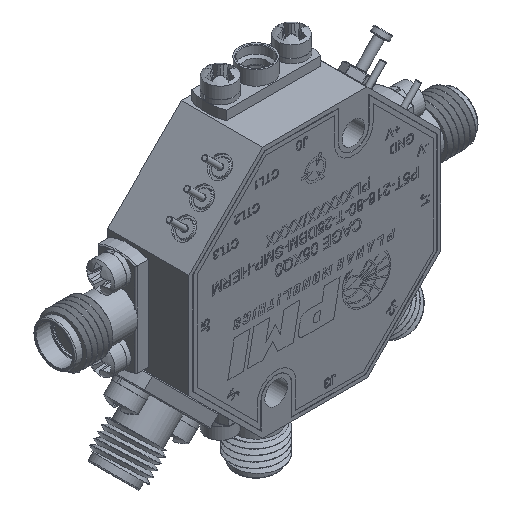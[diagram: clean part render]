
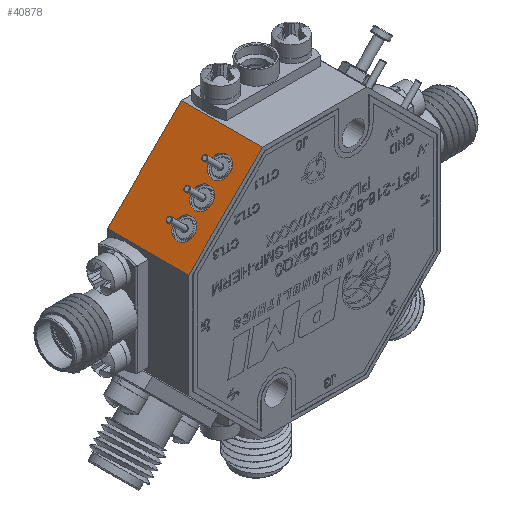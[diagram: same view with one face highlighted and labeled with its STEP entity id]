
A CAD part, isometric view. The second image highlights one B-rep face of the part: STEP entity #40878.
In plain terms, the highlighted planar face has unit normal (-0.707, 0, 0.707).
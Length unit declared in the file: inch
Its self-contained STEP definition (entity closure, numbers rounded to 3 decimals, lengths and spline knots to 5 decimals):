
#510 = VERTEX_POINT ( 'NONE', #32383 ) ;
#1766 = CARTESIAN_POINT ( 'NONE',  ( 39.9144, 39.56234, 38.42088 ) ) ;
#1776 = EDGE_CURVE ( 'NONE', #57775, #57775, #77629, .T. ) ;
#5767 = DIRECTION ( 'NONE',  ( -0.707, 0., 0.707 ) ) ;
#6944 = FACE_BOUND ( 'NONE', #27933, .T. ) ;
#7487 = VERTEX_POINT ( 'NONE', #59192 ) ;
#10163 = CARTESIAN_POINT ( 'NONE',  ( 39.9144, 39.60984, 38.42088 ) ) ;
#11104 = VERTEX_POINT ( 'NONE', #88911 ) ;
#14470 = EDGE_CURVE ( 'NONE', #510, #73218, #83083, .T. ) ;
#14528 = EDGE_LOOP ( 'NONE', ( #21858 ) ) ;
#16081 = DIRECTION ( 'NONE',  ( -0.707, 0., -0.707 ) ) ;
#17185 = ORIENTED_EDGE ( 'NONE', *, *, #73650, .F. ) ;
#17707 = EDGE_LOOP ( 'NONE', ( #38655, #76972, #59260, #48938 ) ) ;
#19159 = VERTEX_POINT ( 'NONE', #34877 ) ;
#21858 = ORIENTED_EDGE ( 'NONE', *, *, #1776, .F. ) ;
#26638 = DIRECTION ( 'NONE',  ( -0.707, 0., 0.707 ) ) ;
#27933 = EDGE_LOOP ( 'NONE', ( #87991 ) ) ;
#29557 = VECTOR ( 'NONE', #38225, 39.37008 ) ;
#31439 = CARTESIAN_POINT ( 'NONE',  ( 40.04478, 39.32434, 38.55126 ) ) ;
#32383 = CARTESIAN_POINT ( 'NONE',  ( 39.9144, 39.60984, 38.42088 ) ) ;
#33131 = EDGE_CURVE ( 'NONE', #11104, #11104, #46407, .T. ) ;
#34236 = DIRECTION ( 'NONE',  ( 0., -1., 0. ) ) ;
#34877 = CARTESIAN_POINT ( 'NONE',  ( 40.28052, 39.60984, 38.787 ) ) ;
#38225 = DIRECTION ( 'NONE',  ( 0.707, 0., 0.707 ) ) ;
#38655 = ORIENTED_EDGE ( 'NONE', *, *, #14470, .T. ) ;
#38769 = DIRECTION ( 'NONE',  ( -0.707, 0., 0.707 ) ) ;
#39779 = AXIS2_PLACEMENT_3D ( 'NONE', #61752, #26638, #54816 ) ;
#40550 = EDGE_CURVE ( 'NONE', #510, #19159, #66830, .T. ) ;
#40878 = ADVANCED_FACE ( 'NONE', ( #83843, #43292, #6944, #48855 ), #70574, .F. ) ;
#43292 = FACE_BOUND ( 'NONE', #14528, .T. ) ;
#43624 = VECTOR ( 'NONE', #34236, 39.37008 ) ;
#46216 = DIRECTION ( 'NONE',  ( -0.707, 0., -0.707 ) ) ;
#46407 = CIRCLE ( 'NONE', #80257, 0.0505 ) ;
#47351 = AXIS2_PLACEMENT_3D ( 'NONE', #1766, #65907, #16081 ) ;
#48855 = FACE_OUTER_BOUND ( 'NONE', #17707, .T. ) ;
#48938 = ORIENTED_EDGE ( 'NONE', *, *, #40550, .F. ) ;
#50384 = CARTESIAN_POINT ( 'NONE',  ( 39.9144, 39.20784, 38.42088 ) ) ;
#52660 = VERTEX_POINT ( 'NONE', #31439 ) ;
#54816 = DIRECTION ( 'NONE',  ( 0.707, 0., 0.707 ) ) ;
#57486 = CARTESIAN_POINT ( 'NONE',  ( 40.28052, 39.56234, 38.787 ) ) ;
#57775 = VERTEX_POINT ( 'NONE', #72116 ) ;
#59192 = CARTESIAN_POINT ( 'NONE',  ( 40.28052, 39.20784, 38.787 ) ) ;
#59260 = ORIENTED_EDGE ( 'NONE', *, *, #76084, .F. ) ;
#61752 = CARTESIAN_POINT ( 'NONE',  ( 40.00907, 39.32434, 38.51555 ) ) ;
#64437 = LINE ( 'NONE', #57486, #74044 ) ;
#64460 = EDGE_CURVE ( 'NONE', #7487, #73218, #81693, .T. ) ;
#64845 = VECTOR ( 'NONE', #46216, 39.37008 ) ;
#65907 = DIRECTION ( 'NONE',  ( 0.707, 0., -0.707 ) ) ;
#66830 = LINE ( 'NONE', #10163, #29557 ) ;
#69355 = CARTESIAN_POINT ( 'NONE',  ( 39.9144, 39.56234, 38.42088 ) ) ;
#70574 = PLANE ( 'NONE',  #47351 ) ;
#72116 = CARTESIAN_POINT ( 'NONE',  ( 40.13317, 39.32434, 38.63965 ) ) ;
#72289 = CIRCLE ( 'NONE', #39779, 0.0505 ) ;
#73218 = VERTEX_POINT ( 'NONE', #50384 ) ;
#73650 = EDGE_CURVE ( 'NONE', #52660, #52660, #72289, .T. ) ;
#74044 = VECTOR ( 'NONE', #85567, 39.37008 ) ;
#76084 = EDGE_CURVE ( 'NONE', #19159, #7487, #64437, .T. ) ;
#76972 = ORIENTED_EDGE ( 'NONE', *, *, #64460, .F. ) ;
#77186 = DIRECTION ( 'NONE',  ( 0.707, 0., 0.707 ) ) ;
#77629 = CIRCLE ( 'NONE', #87823, 0.0505 ) ;
#80257 = AXIS2_PLACEMENT_3D ( 'NONE', #82539, #38769, #81174 ) ;
#80336 = EDGE_LOOP ( 'NONE', ( #17185 ) ) ;
#81174 = DIRECTION ( 'NONE',  ( 0.707, 0., 0.707 ) ) ;
#81693 = LINE ( 'NONE', #89082, #64845 ) ;
#82539 = CARTESIAN_POINT ( 'NONE',  ( 40.18585, 39.32434, 38.69233 ) ) ;
#83083 = LINE ( 'NONE', #69355, #43624 ) ;
#83116 = CARTESIAN_POINT ( 'NONE',  ( 40.09746, 39.32434, 38.60394 ) ) ;
#83843 = FACE_BOUND ( 'NONE', #80336, .T. ) ;
#85567 = DIRECTION ( 'NONE',  ( 0., -1., 0. ) ) ;
#87823 = AXIS2_PLACEMENT_3D ( 'NONE', #83116, #5767, #77186 ) ;
#87991 = ORIENTED_EDGE ( 'NONE', *, *, #33131, .F. ) ;
#88911 = CARTESIAN_POINT ( 'NONE',  ( 40.22156, 39.32434, 38.72804 ) ) ;
#89082 = CARTESIAN_POINT ( 'NONE',  ( 40.28052, 39.20784, 38.787 ) ) ;
